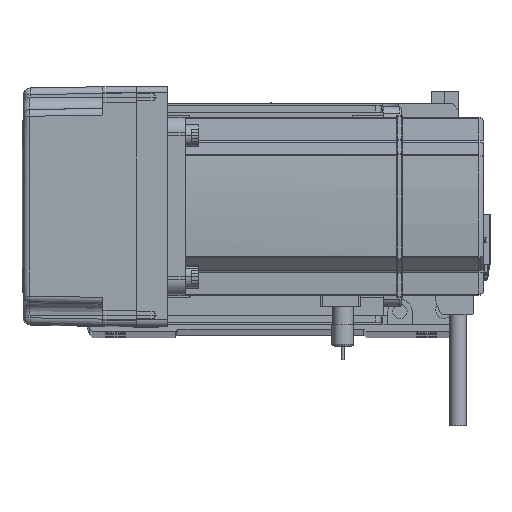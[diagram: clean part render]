
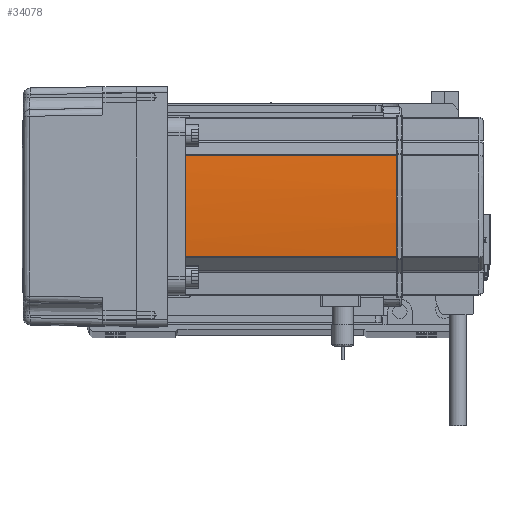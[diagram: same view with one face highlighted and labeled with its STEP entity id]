
A CAD part, top view. The second image highlights one B-rep face of the part: STEP entity #34078.
In plain terms, the highlighted cylindrical face has radius 270 mm (diameter 540 mm), a partial arc.
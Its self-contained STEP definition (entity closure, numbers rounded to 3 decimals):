
#521 = VERTEX_POINT ( 'NONE', #26404 ) ;
#2503 = VERTEX_POINT ( 'NONE', #35759 ) ;
#4714 = CARTESIAN_POINT ( 'NONE',  ( 40., -0.127, 134. ) ) ;
#4881 = CARTESIAN_POINT ( 'NONE',  ( 39.042, 22.724, 39. ) ) ;
#7197 = DIRECTION ( 'NONE',  ( 0., 0., -1. ) ) ;
#7574 = CARTESIAN_POINT ( 'NONE',  ( 39.042, 22.724, 58. ) ) ;
#9056 = CARTESIAN_POINT ( 'NONE',  ( 40., 0.127, 134. ) ) ;
#11109 = CIRCLE ( 'NONE', #43799, 270. ) ;
#12926 = CIRCLE ( 'NONE', #20683, 270. ) ;
#13348 = ORIENTED_EDGE ( 'NONE', *, *, #58695, .T. ) ;
#15763 = VERTEX_POINT ( 'NONE', #9056 ) ;
#16572 = DIRECTION ( 'NONE',  ( -1., 0., 0. ) ) ;
#17442 = DIRECTION ( 'NONE',  ( -1., 0., 0. ) ) ;
#18590 = CIRCLE ( 'NONE', #29357, 270. ) ;
#19146 = EDGE_CURVE ( 'NONE', #32946, #15763, #55751, .T. ) ;
#20509 = CARTESIAN_POINT ( 'NONE',  ( -230., 0., 134. ) ) ;
#20683 = AXIS2_PLACEMENT_3D ( 'NONE', #54363, #45450, #17442 ) ;
#21449 = ORIENTED_EDGE ( 'NONE', *, *, #31091, .T. ) ;
#22134 = ORIENTED_EDGE ( 'NONE', *, *, #27808, .T. ) ;
#23477 = ORIENTED_EDGE ( 'NONE', *, *, #57823, .T. ) ;
#24054 = CYLINDRICAL_SURFACE ( 'NONE', #28665, 270. ) ;
#26404 = CARTESIAN_POINT ( 'NONE',  ( 39.042, -22.724, 134. ) ) ;
#27808 = EDGE_CURVE ( 'NONE', #521, #2503, #60399, .T. ) ;
#28143 = EDGE_LOOP ( 'NONE', ( #22134, #44912, #23477, #13348, #50243, #21449 ) ) ;
#28665 = AXIS2_PLACEMENT_3D ( 'NONE', #48608, #7197, #48402 ) ;
#28859 = LINE ( 'NONE', #7574, #39107 ) ;
#29357 = AXIS2_PLACEMENT_3D ( 'NONE', #20509, #35009, #16572 ) ;
#29543 = CARTESIAN_POINT ( 'NONE',  ( -230., 0., 134. ) ) ;
#29740 = DIRECTION ( 'NONE',  ( -1., 0., 0. ) ) ;
#31091 = EDGE_CURVE ( 'NONE', #32946, #521, #11109, .T. ) ;
#32236 = CARTESIAN_POINT ( 'NONE',  ( 40., 0.042, 134. ) ) ;
#32946 = VERTEX_POINT ( 'NONE', #4714 ) ;
#34078 = ADVANCED_FACE ( 'NONE', ( #48887 ), #24054, .T. ) ;
#34862 = DIRECTION ( 'NONE',  ( 0., 0., -1. ) ) ;
#35009 = DIRECTION ( 'NONE',  ( 0., 0., -1. ) ) ;
#35759 = CARTESIAN_POINT ( 'NONE',  ( 39.042, -22.724, 39. ) ) ;
#37318 = CARTESIAN_POINT ( 'NONE',  ( 40., 0.127, 134. ) ) ;
#39107 = VECTOR ( 'NONE', #44097, 1000. ) ;
#41434 = CARTESIAN_POINT ( 'NONE',  ( 39.042, -22.724, 58. ) ) ;
#43799 = AXIS2_PLACEMENT_3D ( 'NONE', #29543, #34862, #29740 ) ;
#44097 = DIRECTION ( 'NONE',  ( 0., 0., 1. ) ) ;
#44649 = VERTEX_POINT ( 'NONE', #4881 ) ;
#44912 = ORIENTED_EDGE ( 'NONE', *, *, #56770, .F. ) ;
#45450 = DIRECTION ( 'NONE',  ( 0., 0., -1. ) ) ;
#46048 = VERTEX_POINT ( 'NONE', #58076 ) ;
#47254 = VECTOR ( 'NONE', #51167, 1000. ) ;
#48402 = DIRECTION ( 'NONE',  ( -1., 0., 0. ) ) ;
#48608 = CARTESIAN_POINT ( 'NONE',  ( -230., 0., 58. ) ) ;
#48887 = FACE_OUTER_BOUND ( 'NONE', #28143, .T. ) ;
#50243 = ORIENTED_EDGE ( 'NONE', *, *, #19146, .F. ) ;
#51167 = DIRECTION ( 'NONE',  ( 0., 0., -1. ) ) ;
#54363 = CARTESIAN_POINT ( 'NONE',  ( -230., 0., 39. ) ) ;
#55751 = B_SPLINE_CURVE_WITH_KNOTS ( 'NONE', 3,
 ( #60121, #60315, #32236, #37318 ),
 .UNSPECIFIED., .F., .F.,
 ( 4, 4 ),
 ( 0., 1. ),
 .UNSPECIFIED. ) ;
#56770 = EDGE_CURVE ( 'NONE', #44649, #2503, #12926, .T. ) ;
#57823 = EDGE_CURVE ( 'NONE', #44649, #46048, #28859, .T. ) ;
#58076 = CARTESIAN_POINT ( 'NONE',  ( 39.042, 22.724, 134. ) ) ;
#58695 = EDGE_CURVE ( 'NONE', #46048, #15763, #18590, .T. ) ;
#60121 = CARTESIAN_POINT ( 'NONE',  ( 40., -0.127, 134. ) ) ;
#60315 = CARTESIAN_POINT ( 'NONE',  ( 40., -0.042, 134. ) ) ;
#60399 = LINE ( 'NONE', #41434, #47254 ) ;
